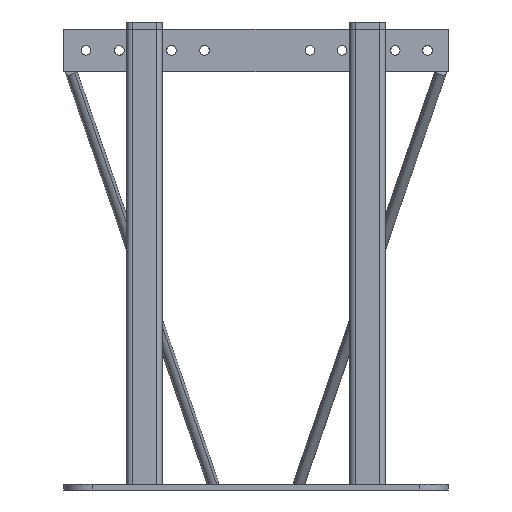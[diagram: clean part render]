
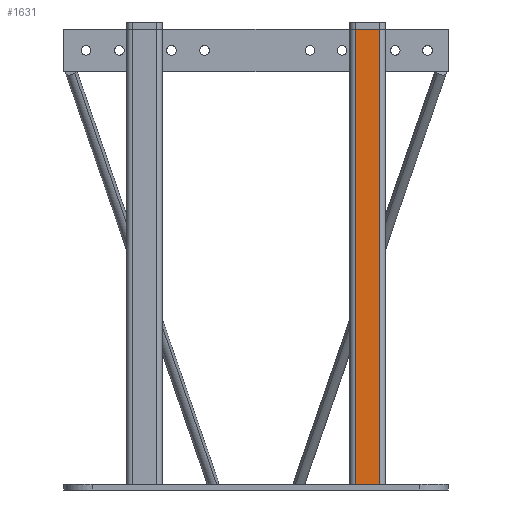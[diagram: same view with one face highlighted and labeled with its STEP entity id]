
A CAD part, front view. The second image highlights one B-rep face of the part: STEP entity #1631.
In plain terms, the highlighted planar face has unit normal (0, -1, 0).
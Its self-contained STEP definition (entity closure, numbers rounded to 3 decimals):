
#1629 = ORIENTED_EDGE ( 'NONE', *, *, #1632, .T. ) ;
#1631 = ADVANCED_FACE ( 'NONE', ( #2626 ), #2620, .F. ) ;
#1632 = EDGE_CURVE ( 'NONE', #1692, #1825, #2615, .T. ) ;
#1633 = EDGE_LOOP ( 'NONE', ( #1635, #1636, #1637, #1629 ) ) ;
#1635 = ORIENTED_EDGE ( 'NONE', *, *, #1831, .T. ) ;
#1636 = ORIENTED_EDGE ( 'NONE', *, *, #1639, .T. ) ;
#1637 = ORIENTED_EDGE ( 'NONE', *, *, #1723, .F. ) ;
#1639 = EDGE_CURVE ( 'NONE', #1836, #1687, #2611, .T. ) ;
#1687 = VERTEX_POINT ( 'NONE', #2726 ) ;
#1692 = VERTEX_POINT ( 'NONE', #2719 ) ;
#1723 = EDGE_CURVE ( 'NONE', #1692, #1687, #2747, .T. ) ;
#1825 = VERTEX_POINT ( 'NONE', #2916 ) ;
#1831 = EDGE_CURVE ( 'NONE', #1825, #1836, #2909, .T. ) ;
#1836 = VERTEX_POINT ( 'NONE', #2899 ) ;
#2609 = VECTOR ( 'NONE', #2672, 1000. ) ;
#2610 = CARTESIAN_POINT ( 'NONE',  ( 8.5, -12.5, 160. ) ) ;
#2611 = LINE ( 'NONE', #2610, #2609 ) ;
#2612 = DIRECTION ( 'NONE',  ( 0., 0., -1. ) ) ;
#2613 = VECTOR ( 'NONE', #2612, 1000. ) ;
#2614 = CARTESIAN_POINT ( 'NONE',  ( -8.5, -12.5, 160. ) ) ;
#2615 = LINE ( 'NONE', #2614, #2613 ) ;
#2616 = DIRECTION ( 'NONE',  ( 0., 0., 1. ) ) ;
#2617 = DIRECTION ( 'NONE',  ( 0., 1., 0. ) ) ;
#2618 = CARTESIAN_POINT ( 'NONE',  ( -12.5, -12.5, 160. ) ) ;
#2619 = AXIS2_PLACEMENT_3D ( 'NONE', #2618, #2617, #2616 ) ;
#2620 = PLANE ( 'NONE',  #2619 ) ;
#2626 = FACE_OUTER_BOUND ( 'NONE', #1633, .T. ) ;
#2672 = DIRECTION ( 'NONE',  ( 0., 0., 1. ) ) ;
#2719 = CARTESIAN_POINT ( 'NONE',  ( -8.5, -12.5, 160. ) ) ;
#2726 = CARTESIAN_POINT ( 'NONE',  ( 8.5, -12.5, 160. ) ) ;
#2744 = DIRECTION ( 'NONE',  ( 1., 0., 0. ) ) ;
#2745 = VECTOR ( 'NONE', #2744, 1000. ) ;
#2746 = CARTESIAN_POINT ( 'NONE',  ( -12.5, -12.5, 160. ) ) ;
#2747 = LINE ( 'NONE', #2746, #2745 ) ;
#2899 = CARTESIAN_POINT ( 'NONE',  ( 8.5, -12.5, -160. ) ) ;
#2901 = DIRECTION ( 'NONE',  ( 1., 0., 0. ) ) ;
#2902 = VECTOR ( 'NONE', #2901, 1000. ) ;
#2903 = CARTESIAN_POINT ( 'NONE',  ( -12.5, -12.5, -160. ) ) ;
#2909 = LINE ( 'NONE', #2903, #2902 ) ;
#2916 = CARTESIAN_POINT ( 'NONE',  ( -8.5, -12.5, -160. ) ) ;
